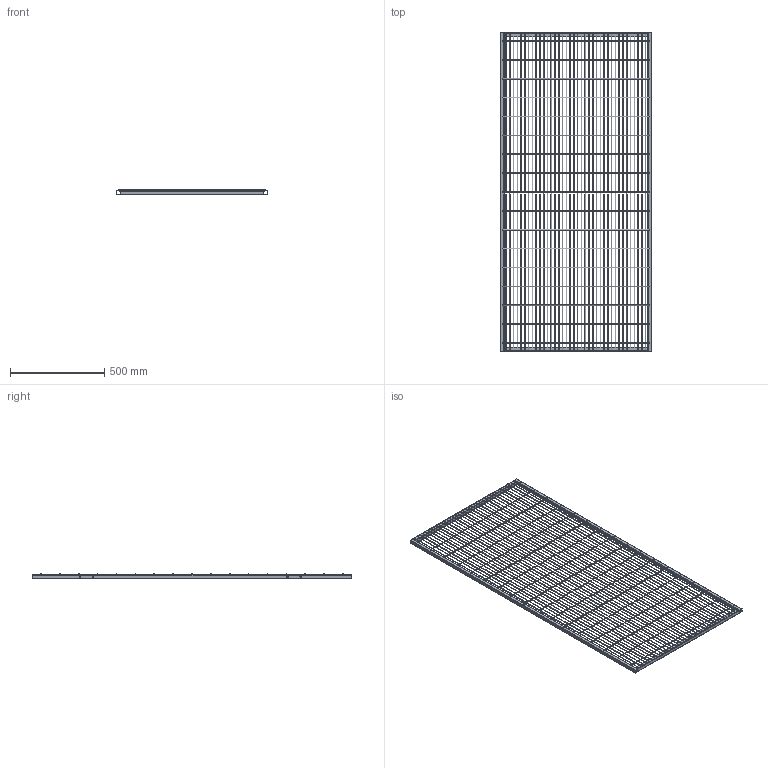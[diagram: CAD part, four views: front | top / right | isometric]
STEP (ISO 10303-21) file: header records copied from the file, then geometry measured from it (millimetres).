
FILE_DESCRIPTION (( 'STEP AP203' ), '1' );
FILE_NAME ('Framed Panel 800 x 1688.STEP', '2023-09-21T16:29:48', ( '' ), ( '' ), 'SwSTEP 2.0', 'SolidWorks 2023', '' );
FILE_SCHEMA (( 'CONFIG_CONTROL_DESIGN' ));
Length unit declared in the file: millimetre
Products named in the file (1): Framed Panel 800 x 1688
Bounding box: 800 x 1688 x 25.96 mm (x, y, z)
Volume: 1070939.8 mm3; surface area: 1430162.8 mm2
Topology: 59 solids, 59 shells, 324 faces, 618 edges, 412 vertices
Faces by surface type: cylinder 174, plane 150
Entity records: 8371 total; most frequent: DIRECTION 1616, CARTESIAN_POINT 1355, ORIENTED_EDGE 1236, AXIS2_PLACEMENT_3D 673, EDGE_CURVE 618, VERTEX_POINT 412, EDGE_LOOP 364, CIRCLE 348
